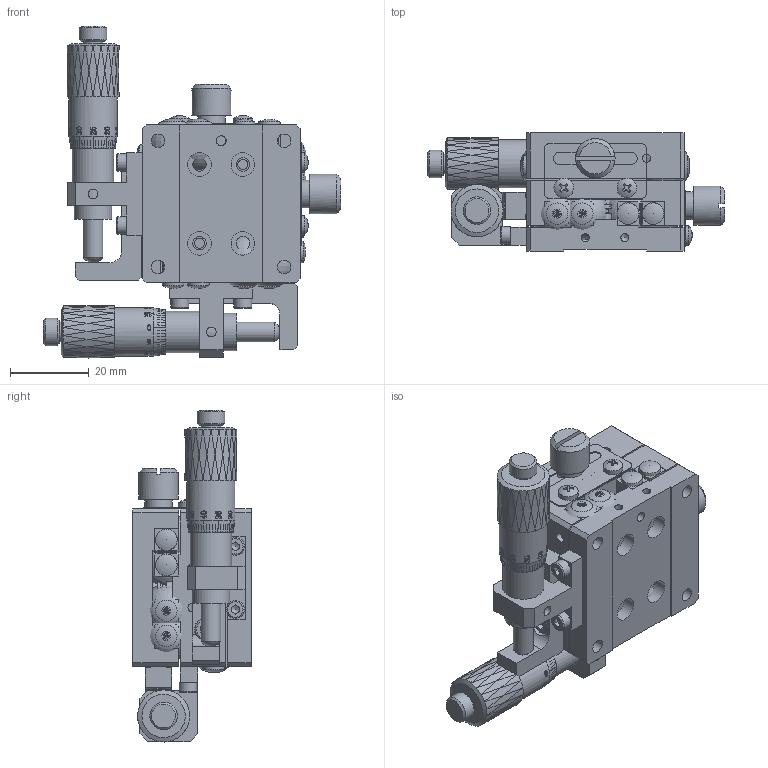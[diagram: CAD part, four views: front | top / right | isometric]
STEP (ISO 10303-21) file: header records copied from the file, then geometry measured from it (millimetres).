
FILE_DESCRIPTION (( 'STEP AP203' ), '1' );
FILE_NAME ('BPMB40.STEP', '2024-07-25T12:08:28', ( 'Windows User' ), ( 'P R C' ), 'SwSTEP 2.0', 'SolidWorks 2024', '' );
FILE_SCHEMA (( 'CONFIG_CONTROL_DESIGN' ));
Products named in the file (1): BPMB40
Bounding box: 75.4 x 30 x 84.2 mm (x, y, z)
Volume: 45444.6 mm3; surface area: 51340.8 mm2
Topology: 47 solids, 47 shells, 2646 faces, 6726 edges, 4380 vertices
Faces by surface type: plane 1004, bspline 798, cylinder 491, cone 311, torus 36, sphere 6
Full cylindrical faces by diameter (mm): 1.6 x4, 1.8 x4, 2 x20, 2.05 x25, 2.4 x4, 2.5 x30, 2.55 x16, 2.95 x18, 3 x20, 3.1 x4, 3.2 x4, 3.4 x16, 4.4 x16, 4.5 x4, 5 x10, 5.5 x8, 5.8 x4, 6 x16, 7 x4, 8.5 x2, 9.5 x4, 10 x2, 10.5 x2, 12.2 x2
Entity records: 142358 total; most frequent: CARTESIAN_POINT 88876, ORIENTED_EDGE 12286, DIRECTION 7789, EDGE_CURVE 6143, VERTEX_POINT 4185, EDGE_LOOP 3462, AXIS2_PLACEMENT_3D 2898, FACE_OUTER_BOUND 2875
